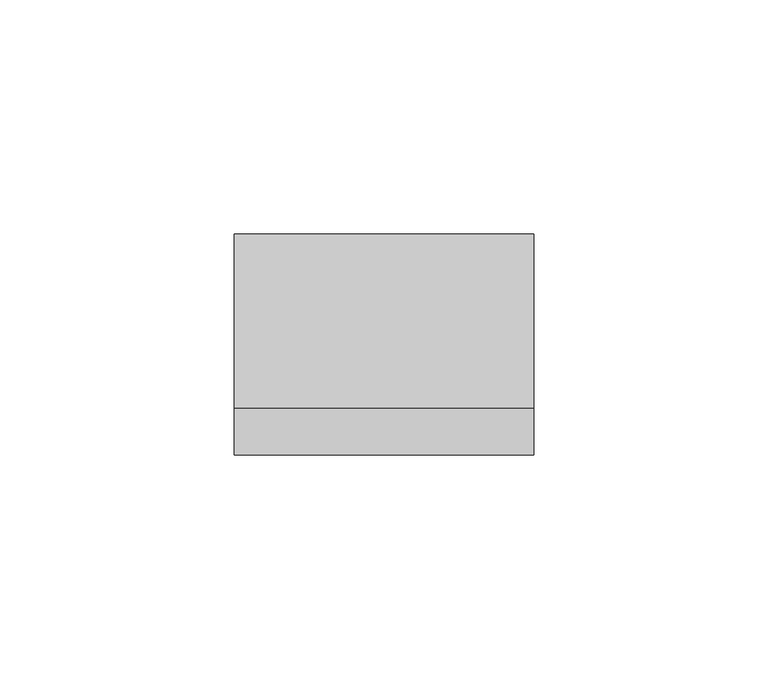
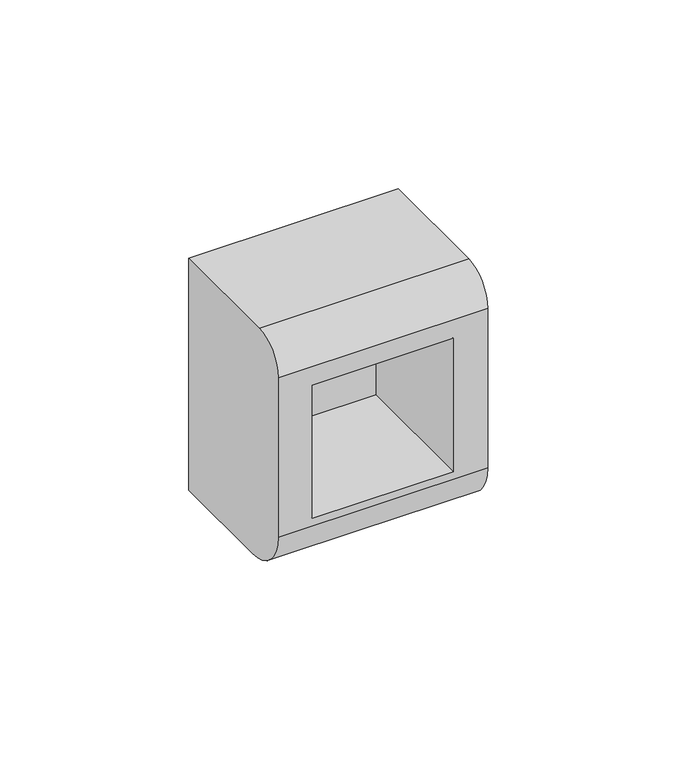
"""IFC4 building model written with IfcOpenShell, lengths in millimetres: proxy geometry, КНС_КоробкаМонтажнаяПод2модуляЭлектроустановочныхИзделий_ILF_DKC : Brava."""

from ifc_helpers import new_model, si_unit, frame, origin, place, context, project, spatial, circle_curve, source, transform, mapped, element, save
from ifc_brep_helpers import plane_surface, cylinder_surface, advanced_brep


def electrical_fixtures_28776af8(model_context):
    return source(origin(), model_context, "Body", "AdvancedBrep", [
        advanced_brep(
        [(32.0, 0.0, -37.5), (32.0, 0.0, 37.5), (32.0, -37.2, 37.5), (32.0, -47.2, 27.5), (32.0, -47.2, -24.0), (32.0, -33.7, -37.5), (-32.0, 0.0, -37.5), (-32.0, -33.7, -37.5), (-32.0, -47.2, -24.0), (-32.0, -47.2, 27.5), (-32.0, -37.2, 37.5), (-32.0, 0.0, 37.5), (-21.5, -6.3084861, 21.5), (-21.5, -6.3084861, -21.5), (21.5, -6.3084861, -21.5), (21.5, -6.3084861, 21.5), (-21.5, -47.2, 21.5), (-21.5, -47.2, -21.5), (21.5, -47.2, -21.5), (21.5, -47.2, 21.5)],
        [
            (0, 1),
            (1, 2),
            (2, 3, circle_curve(frame((32.0, -37.2, 27.5), z_axis=(1.0, 0.0, 0.0), x_axis=(0.0, 1.0, 0.0)), 10.0)),
            (3, 4),
            (4, 5, circle_curve(frame((32.0, -33.7, -24.0), z_axis=(1.0, 0.0, 0.0), x_axis=(0.0, 1.0, 0.0)), 13.5)),
            (5, 0),
            (6, 7),
            (7, 8, circle_curve(frame((-32.0, -33.7, -24.0), z_axis=(-1.0, 0.0, 0.0), x_axis=(0.0, 1.0, 0.0)), 13.5)),
            (8, 9),
            (9, 10, circle_curve(frame((-32.0, -37.2, 27.5), z_axis=(-1.0, 0.0, 0.0), x_axis=(0.0, 1.0, 0.0)), 10.0)),
            (10, 11),
            (11, 6),
            (0, 6),
            (11, 1),
            (10, 2),
            (5, 7),
            (12, 13),
            (13, 14),
            (14, 15),
            (15, 12),
            (12, 16),
            (16, 17),
            (17, 13),
            (17, 18),
            (18, 14),
            (18, 19),
            (19, 15),
            (19, 16),
            (9, 3),
            (8, 4),
        ],
        [
            plane_surface(frame((32.0, 0.0, 37.5), z_axis=(1.0, 0.0, 0.0), x_axis=(0.0, 0.0, 1.0))),
            plane_surface(frame((-32.0, 0.0, 37.5), z_axis=(-1.0, 0.0, 0.0), x_axis=(0.0, 0.0, -1.0))),
            plane_surface(frame((32.0, 0.0, -37.5), z_axis=(0.0, 1.0, 0.0), x_axis=(-1.0, 0.0, 0.0))),
            plane_surface(frame((32.0, 0.0, 37.5), z_axis=(0.0, 0.0, 1.0), x_axis=(-1.0, 0.0, 0.0))),
            plane_surface(frame((32.0, -33.7, -37.5), z_axis=(0.0, 0.0, -1.0), x_axis=(-1.0, 0.0, 0.0))),
            plane_surface(frame((-21.5, -6.3084861, 21.5), z_axis=(0.0, -1.0, 0.0), x_axis=(0.0, 0.0, 1.0))),
            plane_surface(frame((-21.5, -61.0, 21.5), z_axis=(1.0, 0.0, 0.0), x_axis=(0.0, 1.0, 0.0))),
            plane_surface(frame((-21.5, -61.0, -21.5), z_axis=(0.0, 0.0, 1.0), x_axis=(0.0, 1.0, 0.0))),
            plane_surface(frame((21.5, -61.0, -21.5), z_axis=(-1.0, 0.0, 0.0), x_axis=(0.0, 1.0, 0.0))),
            plane_surface(frame((21.5, -61.0, 21.5), z_axis=(0.0, 0.0, -1.0), x_axis=(0.0, 1.0, 0.0))),
            cylinder_surface(frame((-32.0, -37.2, 27.5), z_axis=(1.0, 0.0, 0.0), x_axis=(0.0, 1.0, 0.0)), 10.0),
            plane_surface(frame((32.0, -47.2, 27.5), z_axis=(0.0, -1.0, 0.0), x_axis=(-1.0, 0.0, 0.0))),
            cylinder_surface(frame((-32.0, -33.7, -24.0), z_axis=(1.0, 0.0, 0.0), x_axis=(0.0, 1.0, 0.0)), 13.5),
        ],
        [
            (0, [[1, 2, 3, 4, 5, 6]]),
            (1, [[7, 8, 9, 10, 11, 12]]),
            (2, [[-1, 13, -12, 14]]),
            (3, [[-2, -14, -11, 15]]),
            (4, [[-6, 16, -7, -13]]),
            (5, [[17, 18, 19, 20]]),
            (6, [[-17, 21, 22, 23]]),
            (7, [[-18, -23, 24, 25]]),
            (8, [[-19, -25, 26, 27]]),
            (9, [[-20, -27, 28, -21]]),
            (10, [[-3, -15, -10, 29]]),
            (11, [[-4, -29, -9, 30], [-22, -28, -26, -24]]),
            (12, [[-5, -30, -8, -16]]),
        ],
    ),
    ])


if __name__ == "__main__":
    model = new_model("IFC4")
    model_context = context("Model", 3, world=origin())
    ifc_project = project(units=[si_unit("LENGTHUNIT", "METRE", prefix="MILLI")], contexts=[model_context])
    site = spatial("IfcSite", under=ifc_project)
    building = spatial("IfcBuilding", under=site)
    placement = place(None, origin())
    electrical_fixtures_shape = electrical_fixtures_28776af8(model_context)
    element("IfcBuildingElementProxy", 1, Name="КНС_КоробкаМонтажнаяПод2модуляЭлектроустановочныхИзделий_ILF_DKC : Brava", ObjectType="КНС_КоробкаМонтажнаяПод2модуляЭлектроустановочныхИзделий_ILF_DKC : Brava", at=placement, inside=building, context=model_context, shape_type="MappedRepresentation", body=[
        mapped(electrical_fixtures_shape, transform((0.0, 0.0, 0.0), x_axis=(1.0, 0.0, 0.0), y_axis=(0.0, 1.0, 0.0), z_axis=(0.0, 0.0, 1.0))),
    ])
    save(model, "model.ifc")
